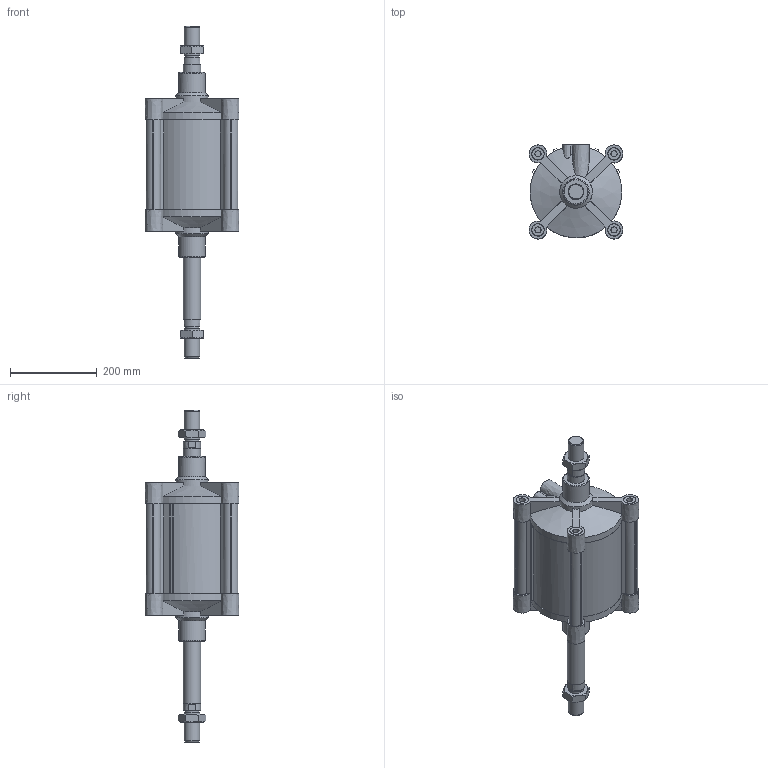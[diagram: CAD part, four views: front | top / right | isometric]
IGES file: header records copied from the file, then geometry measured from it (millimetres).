
Global section: file name: 139#_200_0125_02; native system: Autodesk Inventor 2014; preprocessor: unknown; author: F. Piloni; organization: Pneumax S.p.A.; date: 20151120.143203; units: millimetre
Bounding box: 216 x 216 x 764 mm (x, y, z)
Volume: 7460807.1 mm3; surface area: 957867.1 mm2
Topology: 6 solids, 6 shells, 324 faces, 844 edges, 567 vertices
Faces by surface type: bspline 324
